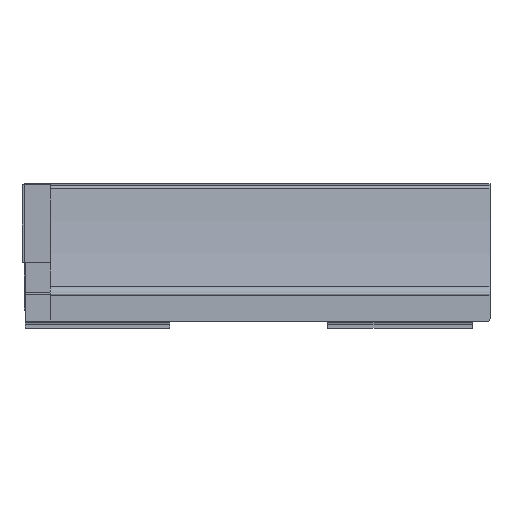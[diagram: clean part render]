
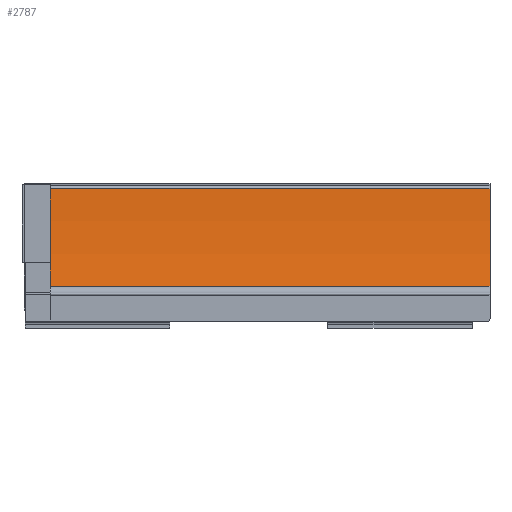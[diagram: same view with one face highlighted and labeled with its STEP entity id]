
A CAD part, left-side view. The second image highlights one B-rep face of the part: STEP entity #2787.
In plain terms, the highlighted cylindrical face has radius 350 mm (diameter 700 mm), a partial arc.
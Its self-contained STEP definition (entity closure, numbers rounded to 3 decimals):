
#190 = CYLINDRICAL_SURFACE ( 'NONE', #1419, 350. ) ;
#208 = FACE_OUTER_BOUND ( 'NONE', #2295, .T. ) ;
#322 = VERTEX_POINT ( 'NONE', #525 ) ;
#354 = VERTEX_POINT ( 'NONE', #554 ) ;
#417 = VERTEX_POINT ( 'NONE', #617 ) ;
#418 = VERTEX_POINT ( 'NONE', #618 ) ;
#525 = CARTESIAN_POINT ( 'NONE',  ( -27.279, 273.8, -13.745 ) ) ;
#554 = CARTESIAN_POINT ( 'NONE',  ( -19.93, 273.8, 46.864 ) ) ;
#617 = CARTESIAN_POINT ( 'NONE',  ( -27.279, 0., -13.745 ) ) ;
#618 = CARTESIAN_POINT ( 'NONE',  ( -19.93, 0., 46.864 ) ) ;
#779 = CARTESIAN_POINT ( 'NONE',  ( -27.279, 290., -13.745 ) ) ;
#786 = DIRECTION ( 'NONE',  ( 0., -1., 0. ) ) ;
#939 = CARTESIAN_POINT ( 'NONE',  ( -369.736, 273.8, 58.528 ) ) ;
#940 = DIRECTION ( 'NONE',  ( 0., -1., 0. ) ) ;
#941 = DIRECTION ( 'NONE',  ( -1., 0., 0. ) ) ;
#999 = EDGE_CURVE ( 'NONE', #322, #417, #3178, .T. ) ;
#1106 = EDGE_CURVE ( 'NONE', #322, #354, #3309, .T. ) ;
#1172 = EDGE_CURVE ( 'NONE', #417, #418, #3389, .T. ) ;
#1190 = EDGE_CURVE ( 'NONE', #354, #418, #3408, .T. ) ;
#1282 = AXIS2_PLACEMENT_3D ( 'NONE', #939, #940, #941 ) ;
#1395 = AXIS2_PLACEMENT_3D ( 'NONE', #1482, #1494, #1495 ) ;
#1419 = AXIS2_PLACEMENT_3D ( 'NONE', #1948, #1947, #1946 ) ;
#1482 = CARTESIAN_POINT ( 'NONE',  ( -369.736, 0., 58.528 ) ) ;
#1494 = DIRECTION ( 'NONE',  ( 0., -1., 0. ) ) ;
#1495 = DIRECTION ( 'NONE',  ( -1., 0., 0. ) ) ;
#1520 = CARTESIAN_POINT ( 'NONE',  ( -19.93, 290., 46.864 ) ) ;
#1521 = DIRECTION ( 'NONE',  ( 0., -1., 0. ) ) ;
#1946 = DIRECTION ( 'NONE',  ( 1., 0., 0. ) ) ;
#1947 = DIRECTION ( 'NONE',  ( 0., -1., 0. ) ) ;
#1948 = CARTESIAN_POINT ( 'NONE',  ( -369.736, 290., 58.528 ) ) ;
#2295 = EDGE_LOOP ( 'NONE', ( #2634, #2635, #2636, #2637 ) ) ;
#2634 = ORIENTED_EDGE ( 'NONE', *, *, #1106, .F. ) ;
#2635 = ORIENTED_EDGE ( 'NONE', *, *, #999, .T. ) ;
#2636 = ORIENTED_EDGE ( 'NONE', *, *, #1172, .T. ) ;
#2637 = ORIENTED_EDGE ( 'NONE', *, *, #1190, .F. ) ;
#2787 = ADVANCED_FACE ( 'NONE', ( #208 ), #190, .F. ) ;
#3171 = VECTOR ( 'NONE', #786, 1000. ) ;
#3178 = LINE ( 'NONE', #779, #3171 ) ;
#3309 = CIRCLE ( 'NONE', #1282, 350. ) ;
#3389 = CIRCLE ( 'NONE', #1395, 350. ) ;
#3408 = LINE ( 'NONE', #1520, #3409 ) ;
#3409 = VECTOR ( 'NONE', #1521, 1000. ) ;
